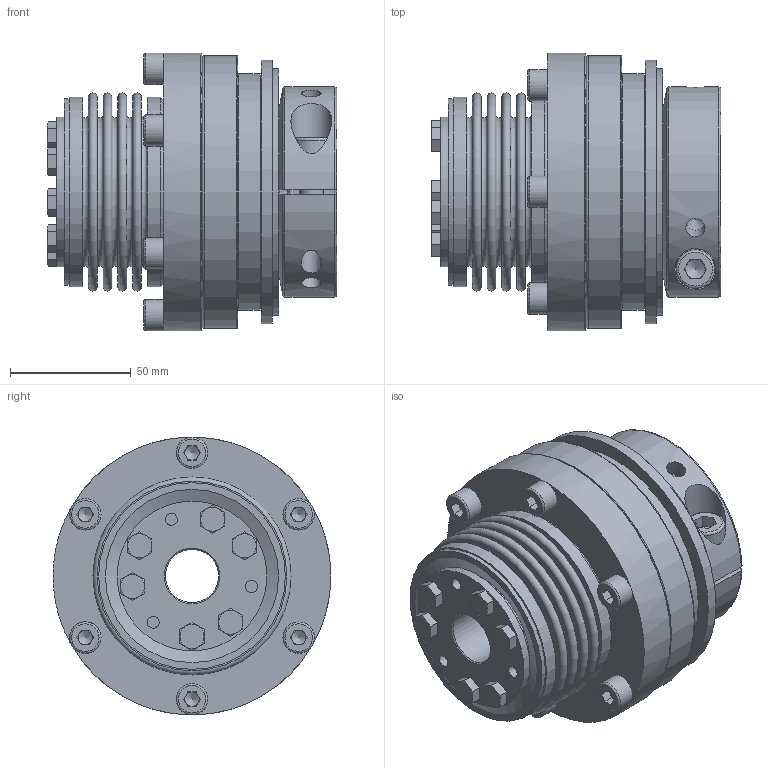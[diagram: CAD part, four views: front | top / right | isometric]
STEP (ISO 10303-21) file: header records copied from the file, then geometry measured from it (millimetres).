
FILE_DESCRIPTION( ( 'Unknown' ), '1' );
FILE_NAME( 'F:/JAKOB-STEP+IGES-Dateien/STEP-Dateien/SKB-KS/SKB-KS 330.stp', 'Unknown', ( 'Unknown' ), ( 'Unknown' ), 'PSStep 10.1', 'Unknown', ' ' );
FILE_SCHEMA( ( 'AUTOMOTIVE_DESIGN { 1 0 10303 214 1 1 1 1 }' ) );
Length unit declared in the file: millimetre
Products named in the file (1): 20710545
Bounding box: 119.85 x 115 x 115 mm (x, y, z)
Volume: 580000.1 mm3; surface area: 193249.3 mm2
Topology: 1 solids, 9 shells, 543 faces, 1398 edges, 895 vertices
Faces by surface type: plane 274, cylinder 107, torus 79, cone 67, sphere 12, bspline 4
Full cylindrical faces by diameter (mm): 2.5 x2, 5 x10, 6 x7, 6.3 x6, 6.8 x6, 8 x9, 8.5 x1, 8.6 x6, 8.7 x6, 10 x1, 10.5 x1, 13 x6, 16 x1, 17 x1, 22 x1, 32 x1, 36 x1, 41.4 x1, 47.5 x1, 49.8 x1, 50 x2, 58 x2, 62 x2, 62.5 x2, 65 x1, 65.1 x1, 71 x1, 77.3 x2, 78.1 x2, 78.5 x2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
Entity records: 21021 total; most frequent: CARTESIAN_POINT 4803, DIRECTION 2464, ORIENTED_EDGE 2212, EDGE_CURVE 1106, AXIS2_PLACEMENT_3D 1044, EDGE_LOOP 820, VERTEX_POINT 788, FACE_OUTER_BOUND 674
